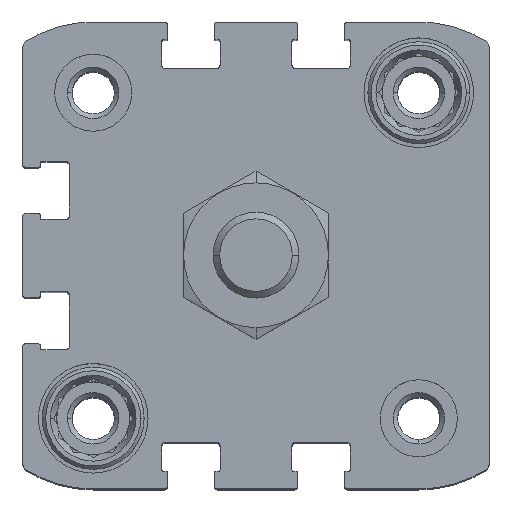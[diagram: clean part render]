
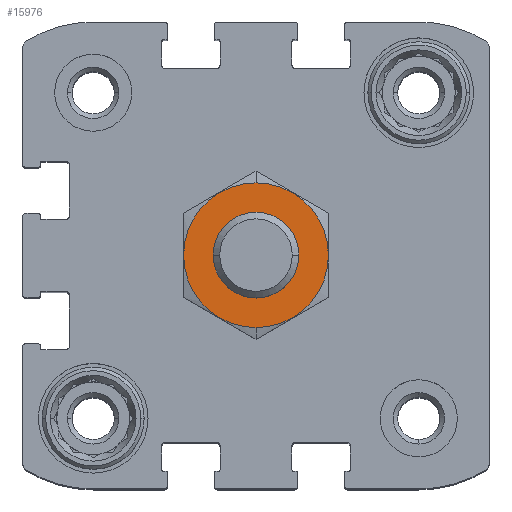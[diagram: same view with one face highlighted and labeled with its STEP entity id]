
A CAD part, top view. The second image highlights one B-rep face of the part: STEP entity #15976.
In plain terms, the highlighted planar face has unit normal (0, 0, 1).
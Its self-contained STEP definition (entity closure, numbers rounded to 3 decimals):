
#99 = CIRCLE ( 'NONE', #8209, 8.45 ) ;
#253 = CARTESIAN_POINT ( 'NONE',  ( 0., 0., 15.8 ) ) ;
#300 = ORIENTED_EDGE ( 'NONE', *, *, #10389, .F. ) ;
#471 = FACE_OUTER_BOUND ( 'NONE', #13613, .T. ) ;
#898 = CARTESIAN_POINT ( 'NONE',  ( 0., 0., 15.8 ) ) ;
#1707 = DIRECTION ( 'NONE',  ( 0., 1., 0. ) ) ;
#2150 = ORIENTED_EDGE ( 'NONE', *, *, #5556, .T. ) ;
#2163 = CARTESIAN_POINT ( 'NONE',  ( 0., 0., 15.8 ) ) ;
#3013 = CARTESIAN_POINT ( 'NONE',  ( 0., -8.45, 15.8 ) ) ;
#3538 = CARTESIAN_POINT ( 'NONE',  ( 0., 5., 15.8 ) ) ;
#3750 = EDGE_CURVE ( 'NONE', #11907, #12429, #8278, .T. ) ;
#4652 = AXIS2_PLACEMENT_3D ( 'NONE', #253, #12189, #12278 ) ;
#4698 = EDGE_LOOP ( 'NONE', ( #2150, #8618 ) ) ;
#5556 = EDGE_CURVE ( 'NONE', #12429, #11907, #14599, .T. ) ;
#5689 = DIRECTION ( 'NONE',  ( 0., 0., -1. ) ) ;
#5946 = DIRECTION ( 'NONE',  ( 0., 1., 0. ) ) ;
#6398 = CARTESIAN_POINT ( 'NONE',  ( 0., -5., 15.8 ) ) ;
#7214 = AXIS2_PLACEMENT_3D ( 'NONE', #2163, #15431, #5946 ) ;
#7229 = CARTESIAN_POINT ( 'NONE',  ( 0., 0., 15.8 ) ) ;
#7498 = VERTEX_POINT ( 'NONE', #8927 ) ;
#8209 = AXIS2_PLACEMENT_3D ( 'NONE', #12094, #5689, #10771 ) ;
#8278 = CIRCLE ( 'NONE', #4652, 5. ) ;
#8618 = ORIENTED_EDGE ( 'NONE', *, *, #3750, .T. ) ;
#8927 = CARTESIAN_POINT ( 'NONE',  ( 0., 8.45, 15.8 ) ) ;
#9767 = PLANE ( 'NONE',  #11060 ) ;
#9889 = ORIENTED_EDGE ( 'NONE', *, *, #13849, .F. ) ;
#10389 = EDGE_CURVE ( 'NONE', #13188, #7498, #99, .T. ) ;
#10390 = DIRECTION ( 'NONE',  ( 0., 0., -1. ) ) ;
#10771 = DIRECTION ( 'NONE',  ( 0., 1., 0. ) ) ;
#11060 = AXIS2_PLACEMENT_3D ( 'NONE', #7229, #12330, #1707 ) ;
#11907 = VERTEX_POINT ( 'NONE', #3538 ) ;
#12094 = CARTESIAN_POINT ( 'NONE',  ( 0., 0., 15.8 ) ) ;
#12189 = DIRECTION ( 'NONE',  ( 0., 0., -1. ) ) ;
#12278 = DIRECTION ( 'NONE',  ( 0., 1., 0. ) ) ;
#12330 = DIRECTION ( 'NONE',  ( 0., 0., -1. ) ) ;
#12429 = VERTEX_POINT ( 'NONE', #6398 ) ;
#13188 = VERTEX_POINT ( 'NONE', #3013 ) ;
#13386 = CIRCLE ( 'NONE', #7214, 8.45 ) ;
#13613 = EDGE_LOOP ( 'NONE', ( #9889, #300 ) ) ;
#13826 = FACE_BOUND ( 'NONE', #4698, .T. ) ;
#13849 = EDGE_CURVE ( 'NONE', #7498, #13188, #13386, .T. ) ;
#14599 = CIRCLE ( 'NONE', #17145, 5. ) ;
#15431 = DIRECTION ( 'NONE',  ( 0., 0., -1. ) ) ;
#15927 = DIRECTION ( 'NONE',  ( 0., 1., 0. ) ) ;
#15976 = ADVANCED_FACE ( 'NONE', ( #471, #13826 ), #9767, .F. ) ;
#17145 = AXIS2_PLACEMENT_3D ( 'NONE', #898, #10390, #15927 ) ;
